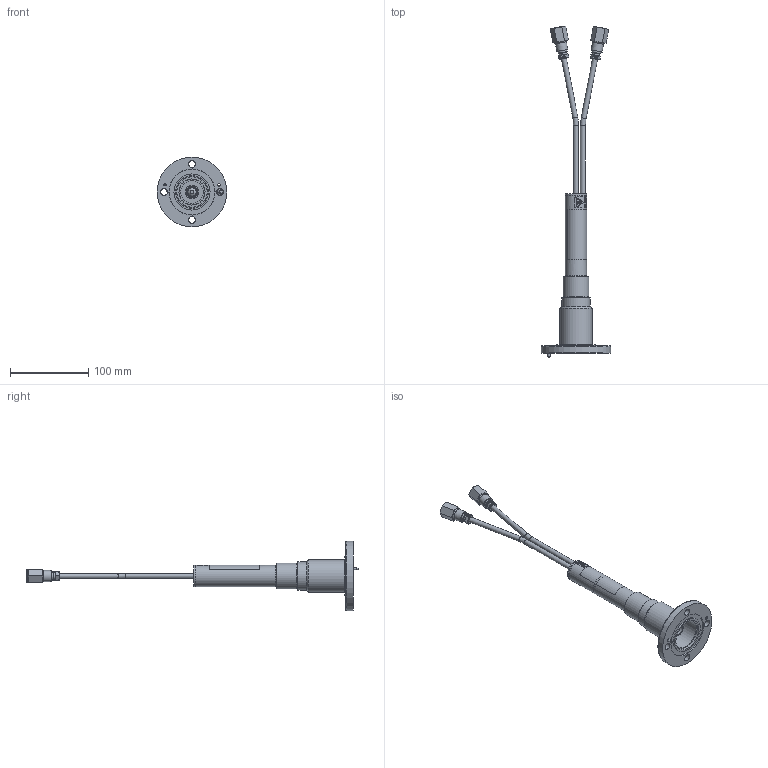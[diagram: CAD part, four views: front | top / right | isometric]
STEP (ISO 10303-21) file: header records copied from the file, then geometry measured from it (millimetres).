
FILE_DESCRIPTION(/* description */ (''),/* implementation_level */ '2;1');
FILE_NAME(/* name */ '8720-000_RevD_STEP',/* time_stamp */ '2017-09-05T09:01:04-04:00',/* author */ ('Tom Smith'),/* organization */ ('Bird'),/* preprocessor_version */ 'ST-DEVELOPER v16.7',/* originating_system */ 'DEX',/* authorisation */ $);
FILE_SCHEMA (('AUTOMOTIVE_DESIGN {1 0 10303 214 3 1 1}'));
Length unit declared in the file: inch
Products named in the file (1): 8720-000_TERMALINE
Bounding box: 88.9 x 424.24 x 88.9 mm (x, y, z)
Volume: 120956.3 mm3; surface area: 86758.9 mm2
Topology: 3 solids, 8 shells, 638 faces, 1617 edges, 1066 vertices
Faces by surface type: plane 286, cylinder 208, cone 75, bspline 56, torus 12, sphere 1
Full cylindrical faces by diameter (mm): 2.705 x4, 3.048 x1, 3.277 x1, 4.775 x2, 4.826 x4, 5.08 x2, 6.35 x5, 6.477 x4, 6.604 x1, 7.493 x1, 7.722 x1, 8.712 x4, 8.915 x1, 9.55 x2, 11.1 x1, 11.112 x2, 11.199 x2, 12.649 x1, 12.954 x2, 14.224 x2, 14.3 x1, 14.961 x1, 16.815 x1, 16.866 x1, 24.13 x2, 25.298 x1, 25.4 x3, 25.527 x1, 26.975 x1, 26.987 x1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
Entity records: 22623 total; most frequent: CARTESIAN_POINT 5303, ORIENTED_EDGE 2932, DIRECTION 2796, EDGE_CURVE 1466, AXIS2_PLACEMENT_3D 1069, VERTEX_POINT 1024, FACE_BOUND 840, EDGE_LOOP 839
